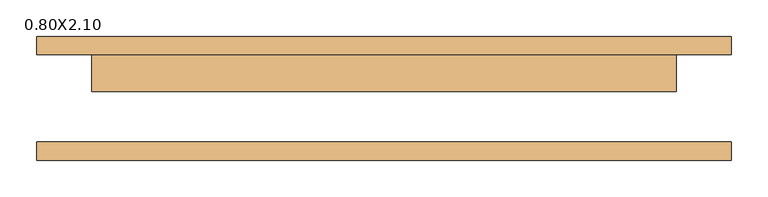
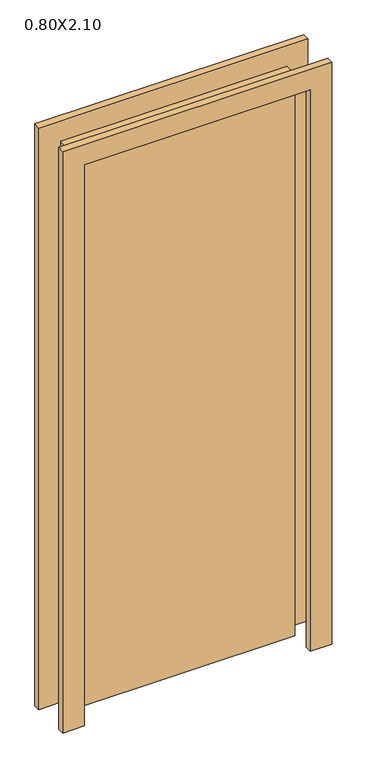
"""IFC4 building model written with IfcOpenShell, lengths in millimetres: door geometry, M_Folha única : 0.80X2.10."""

from ifc_helpers import new_model, si_unit, frame, origin, origin_with_axes, place, context, project, spatial, polyline, outline, extrude, source, transform, mapped, element, save


def door_0_80x2_10_4eece34f(model_context):
    return source(origin(), model_context, "Body", "SweptSolid", [
        extrude(outline(polyline([(2176.0, -476.0), (0.0, -476.0), (0.0, -400.0), (2100.0, -400.0), (2100.0, 400.0), (0.0, 400.0), (0.0, 476.0), (2176.0, 476.0), (2176.0, -476.0)])), frame((0.0, 60.0, 0.0), z_axis=(0.0, 1.0, 0.0), x_axis=(0.0, 0.0, 1.0)), (0.0, 0.0, 1.0), 25.0),
        extrude(outline(polyline([(2176.0, 476.0), (2176.0, -476.0), (0.0, -476.0), (0.0, -400.0), (2100.0, -400.0), (2100.0, 400.0), (0.0, 400.0), (0.0, 476.0), (2176.0, 476.0)])), frame((0.0, -85.0, 0.0), z_axis=(0.0, 1.0, 0.0), x_axis=(0.0, 0.0, 1.0)), (0.0, 0.0, 1.0), 25.0),
        extrude(outline(polyline([(400.0, 9.0), (-400.0, 9.0), (-400.0, 60.0), (400.0, 60.0), (400.0, 9.0)])), origin_with_axes(), (0.0, 0.0, 1.0), 2100.0),
    ])


if __name__ == "__main__":
    model = new_model("IFC4")
    model_context = context("Model", 3, world=origin())
    ifc_project = project(units=[si_unit("LENGTHUNIT", "METRE", prefix="MILLI")], contexts=[model_context])
    site = spatial("IfcSite", under=ifc_project)
    building = spatial("IfcBuilding", under=site)
    placement = place(None, origin())
    door_0_80x2_10_shape = door_0_80x2_10_4eece34f(model_context)
    element("IfcDoor", 1, ObjectType="M_Folha única : 0.80X2.10", at=placement, inside=building, context=model_context, shape_type="MappedRepresentation", body=[
        mapped(door_0_80x2_10_shape, transform((0.0, 0.0, 0.0), x_axis=(1.0, 0.0, 0.0), y_axis=(0.0, 1.0, 0.0), z_axis=(0.0, 0.0, 1.0))),
    ])
    save(model, "model.ifc")
